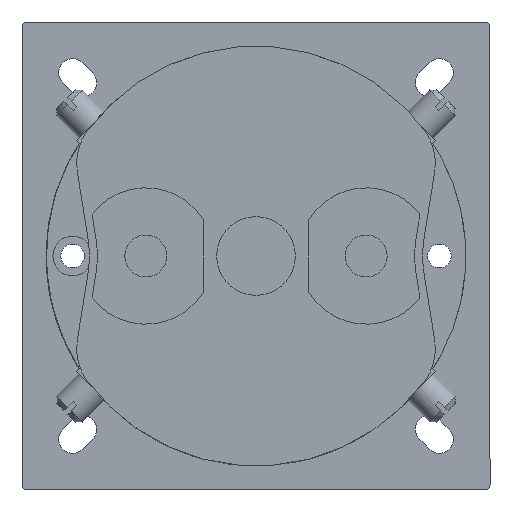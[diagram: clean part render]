
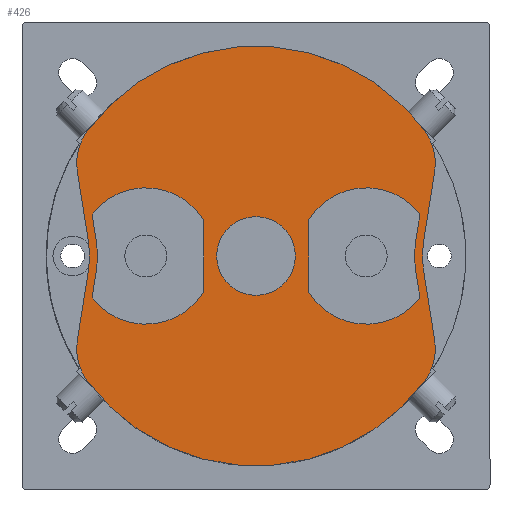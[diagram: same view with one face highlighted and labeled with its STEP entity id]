
A CAD part, front view. The second image highlights one B-rep face of the part: STEP entity #426.
In plain terms, the highlighted planar face has unit normal (0, -1, 0).
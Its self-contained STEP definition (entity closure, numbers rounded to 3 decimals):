
#229=FACE_BOUND('',#1078,.T.);
#230=FACE_BOUND('',#1079,.T.);
#231=FACE_BOUND('',#1080,.T.);
#232=FACE_BOUND('',#1081,.T.);
#426=ADVANCED_FACE('',(#229,#230,#231,#232),#619,.T.);
#619=PLANE('',#4764);
#1078=EDGE_LOOP('',(#1996,#1997,#1998,#1999,#2000,#2001));
#1079=EDGE_LOOP('',(#2002,#2003,#2004,#2005,#2006,#2007));
#1080=EDGE_LOOP('',(#2008,#2009,#2010,#2011,#2012,#2013,#2014,#2015,#2016,
#2017,#2018,#2019));
#1081=EDGE_LOOP('',(#2020));
#1310=CIRCLE('',#4608,40.);
#1316=CIRCLE('',#4614,40.);
#1366=CIRCLE('',#4714,7.5);
#1367=CIRCLE('',#4716,13.);
#1369=CIRCLE('',#4720,21.5);
#1371=CIRCLE('',#4724,13.);
#1373=CIRCLE('',#4730,21.5);
#1375=CIRCLE('',#4734,13.);
#1377=CIRCLE('',#4738,13.);
#1380=CIRCLE('',#4743,10.);
#1382=CIRCLE('',#4747,20.);
#1384=CIRCLE('',#4751,10.);
#1386=CIRCLE('',#4754,10.);
#1388=CIRCLE('',#4758,20.);
#1390=CIRCLE('',#4762,10.);
#1996=ORIENTED_EDGE('',*,*,#3362,.T.);
#1997=ORIENTED_EDGE('',*,*,#3378,.T.);
#1998=ORIENTED_EDGE('',*,*,#3375,.T.);
#1999=ORIENTED_EDGE('',*,*,#3372,.T.);
#2000=ORIENTED_EDGE('',*,*,#3369,.T.);
#2001=ORIENTED_EDGE('',*,*,#3366,.T.);
#2002=ORIENTED_EDGE('',*,*,#3360,.F.);
#2003=ORIENTED_EDGE('',*,*,#3344,.F.);
#2004=ORIENTED_EDGE('',*,*,#3348,.F.);
#2005=ORIENTED_EDGE('',*,*,#3351,.F.);
#2006=ORIENTED_EDGE('',*,*,#3354,.F.);
#2007=ORIENTED_EDGE('',*,*,#3357,.F.);
#2008=ORIENTED_EDGE('',*,*,#3407,.T.);
#2009=ORIENTED_EDGE('',*,*,#3405,.T.);
#2010=ORIENTED_EDGE('',*,*,#3402,.T.);
#2011=ORIENTED_EDGE('',*,*,#3399,.T.);
#2012=ORIENTED_EDGE('',*,*,#3396,.T.);
#2013=ORIENTED_EDGE('',*,*,#3225,.T.);
#2014=ORIENTED_EDGE('',*,*,#3393,.T.);
#2015=ORIENTED_EDGE('',*,*,#3391,.T.);
#2016=ORIENTED_EDGE('',*,*,#3388,.T.);
#2017=ORIENTED_EDGE('',*,*,#3385,.T.);
#2018=ORIENTED_EDGE('',*,*,#3382,.T.);
#2019=ORIENTED_EDGE('',*,*,#3215,.T.);
#2020=ORIENTED_EDGE('',*,*,#3343,.F.);
#2765=VERTEX_POINT('',#6590);
#2766=VERTEX_POINT('',#6592);
#2773=VERTEX_POINT('',#6608);
#2774=VERTEX_POINT('',#6610);
#2851=VERTEX_POINT('',#6855);
#2852=VERTEX_POINT('',#6858);
#2853=VERTEX_POINT('',#6859);
#2856=VERTEX_POINT('',#6867);
#2858=VERTEX_POINT('',#6873);
#2860=VERTEX_POINT('',#6879);
#2862=VERTEX_POINT('',#6885);
#2864=VERTEX_POINT('',#6895);
#2865=VERTEX_POINT('',#6896);
#2868=VERTEX_POINT('',#6904);
#2870=VERTEX_POINT('',#6910);
#2872=VERTEX_POINT('',#6916);
#2874=VERTEX_POINT('',#6922);
#2876=VERTEX_POINT('',#6932);
#2878=VERTEX_POINT('',#6938);
#2880=VERTEX_POINT('',#6944);
#2882=VERTEX_POINT('',#6950);
#2884=VERTEX_POINT('',#6959);
#2886=VERTEX_POINT('',#6965);
#2888=VERTEX_POINT('',#6971);
#2890=VERTEX_POINT('',#6977);
#3215=EDGE_CURVE('',#2766,#2765,#1310,.T.);
#3225=EDGE_CURVE('',#2774,#2773,#1316,.T.);
#3343=EDGE_CURVE('',#2851,#2851,#1366,.T.);
#3344=EDGE_CURVE('',#2852,#2853,#1367,.T.);
#3348=EDGE_CURVE('',#2856,#2852,#3835,.T.);
#3351=EDGE_CURVE('',#2858,#2856,#1369,.T.);
#3354=EDGE_CURVE('',#2860,#2858,#3839,.T.);
#3357=EDGE_CURVE('',#2862,#2860,#1371,.T.);
#3360=EDGE_CURVE('',#2853,#2862,#3843,.T.);
#3362=EDGE_CURVE('',#2864,#2865,#3845,.T.);
#3366=EDGE_CURVE('',#2868,#2864,#1373,.T.);
#3369=EDGE_CURVE('',#2870,#2868,#3850,.T.);
#3372=EDGE_CURVE('',#2872,#2870,#1375,.T.);
#3375=EDGE_CURVE('',#2874,#2872,#3854,.T.);
#3378=EDGE_CURVE('',#2865,#2874,#1377,.T.);
#3382=EDGE_CURVE('',#2876,#2766,#1380,.T.);
#3385=EDGE_CURVE('',#2878,#2876,#3860,.T.);
#3388=EDGE_CURVE('',#2880,#2878,#1382,.T.);
#3391=EDGE_CURVE('',#2882,#2880,#3864,.T.);
#3393=EDGE_CURVE('',#2773,#2882,#1384,.T.);
#3396=EDGE_CURVE('',#2884,#2774,#1386,.T.);
#3399=EDGE_CURVE('',#2886,#2884,#3868,.T.);
#3402=EDGE_CURVE('',#2888,#2886,#1388,.T.);
#3405=EDGE_CURVE('',#2890,#2888,#3872,.T.);
#3407=EDGE_CURVE('',#2765,#2890,#1390,.T.);
#3835=LINE('',#6866,#4236);
#3839=LINE('',#6878,#4240);
#3843=LINE('',#6890,#4244);
#3845=LINE('',#6894,#4246);
#3850=LINE('',#6909,#4251);
#3854=LINE('',#6921,#4255);
#3860=LINE('',#6941,#4261);
#3864=LINE('',#6953,#4265);
#3868=LINE('',#6968,#4269);
#3872=LINE('',#6980,#4273);
#4236=VECTOR('',#5515,1.);
#4240=VECTOR('',#5527,1.);
#4244=VECTOR('',#5539,1.);
#4246=VECTOR('',#5545,1.);
#4251=VECTOR('',#5558,1.);
#4255=VECTOR('',#5570,1.);
#4261=VECTOR('',#5592,1.);
#4265=VECTOR('',#5604,1.);
#4269=VECTOR('',#5622,1.);
#4273=VECTOR('',#5634,1.);
#4608=AXIS2_PLACEMENT_3D('',#6591,#5219,#5220);
#4614=AXIS2_PLACEMENT_3D('',#6609,#5235,#5236);
#4714=AXIS2_PLACEMENT_3D('',#6854,#5503,#5504);
#4716=AXIS2_PLACEMENT_3D('',#6857,#5507,#5508);
#4720=AXIS2_PLACEMENT_3D('',#6872,#5520,#5521);
#4724=AXIS2_PLACEMENT_3D('',#6884,#5532,#5533);
#4730=AXIS2_PLACEMENT_3D('',#6903,#5551,#5552);
#4734=AXIS2_PLACEMENT_3D('',#6915,#5563,#5564);
#4738=AXIS2_PLACEMENT_3D('',#6927,#5575,#5576);
#4743=AXIS2_PLACEMENT_3D('',#6935,#5586,#5587);
#4747=AXIS2_PLACEMENT_3D('',#6947,#5598,#5599);
#4751=AXIS2_PLACEMENT_3D('',#6956,#5609,#5610);
#4754=AXIS2_PLACEMENT_3D('',#6962,#5616,#5617);
#4758=AXIS2_PLACEMENT_3D('',#6974,#5628,#5629);
#4762=AXIS2_PLACEMENT_3D('',#6983,#5639,#5640);
#4764=AXIS2_PLACEMENT_3D('',#6985,#5643,#5644);
#5219=DIRECTION('',(0.,-1.,0.));
#5220=DIRECTION('',(0.,0.,-1.));
#5235=DIRECTION('',(0.,-1.,0.));
#5236=DIRECTION('',(0.,0.,-1.));
#5503=DIRECTION('',(0.,-1.,0.));
#5504=DIRECTION('',(0.,0.,-1.));
#5507=DIRECTION('',(0.,-1.,0.));
#5508=DIRECTION('',(1.,0.,0.));
#5515=DIRECTION('',(0.156,0.,0.988));
#5520=DIRECTION('',(0.,1.,0.));
#5521=DIRECTION('',(1.,0.,0.));
#5527=DIRECTION('',(-0.156,0.,0.988));
#5532=DIRECTION('',(0.,-1.,0.));
#5533=DIRECTION('',(1.,0.,0.));
#5539=DIRECTION('',(0.,0.,-1.));
#5545=DIRECTION('',(-0.156,0.,0.988));
#5551=DIRECTION('',(0.,-1.,0.));
#5552=DIRECTION('',(1.,0.,0.));
#5558=DIRECTION('',(0.156,0.,0.988));
#5563=DIRECTION('',(0.,1.,0.));
#5564=DIRECTION('',(1.,0.,0.));
#5570=DIRECTION('',(0.,0.,-1.));
#5575=DIRECTION('',(0.,1.,0.));
#5576=DIRECTION('',(1.,0.,0.));
#5586=DIRECTION('',(0.,-1.,0.));
#5587=DIRECTION('',(0.,0.,-1.));
#5592=DIRECTION('',(0.156,0.,0.988));
#5598=DIRECTION('',(0.,1.,0.));
#5599=DIRECTION('',(0.,0.,-1.));
#5604=DIRECTION('',(-0.156,0.,0.988));
#5609=DIRECTION('',(0.,-1.,0.));
#5610=DIRECTION('',(0.,0.,-1.));
#5616=DIRECTION('',(0.,-1.,0.));
#5617=DIRECTION('',(0.,0.,-1.));
#5622=DIRECTION('',(-0.156,0.,-0.988));
#5628=DIRECTION('',(0.,1.,0.));
#5629=DIRECTION('',(0.,0.,-1.));
#5634=DIRECTION('',(0.156,0.,-0.988));
#5639=DIRECTION('',(0.,-1.,0.));
#5640=DIRECTION('',(0.,0.,-1.));
#5643=DIRECTION('',(0.,-1.,0.));
#5644=DIRECTION('',(0.,0.,-1.));
#6590=CARTESIAN_POINT('',(-32.249,-62.5,23.665));
#6591=CARTESIAN_POINT('',(0.,-62.5,0.));
#6592=CARTESIAN_POINT('',(32.249,-62.5,23.665));
#6608=CARTESIAN_POINT('',(32.249,-62.5,-23.665));
#6609=CARTESIAN_POINT('',(0.,-62.5,0.));
#6610=CARTESIAN_POINT('',(-32.249,-62.5,-23.665));
#6854=CARTESIAN_POINT('',(0.,-62.5,0.));
#6855=CARTESIAN_POINT('',(0.,-62.5,-7.5));
#6857=CARTESIAN_POINT('',(21.031,-62.5,0.));
#6858=CARTESIAN_POINT('',(31.253,-62.5,8.032));
#6859=CARTESIAN_POINT('',(10.031,-62.5,6.928));
#6866=CARTESIAN_POINT('',(30.514,-62.5,3.363));
#6867=CARTESIAN_POINT('',(30.514,-62.5,3.363));
#6872=CARTESIAN_POINT('',(51.749,-62.5,0.));
#6873=CARTESIAN_POINT('',(30.514,-62.5,-3.363));
#6878=CARTESIAN_POINT('',(31.253,-62.5,-8.032));
#6879=CARTESIAN_POINT('',(31.253,-62.5,-8.032));
#6884=CARTESIAN_POINT('',(21.031,-62.5,0.));
#6885=CARTESIAN_POINT('',(10.031,-62.5,-6.928));
#6890=CARTESIAN_POINT('',(10.031,-62.5,6.928));
#6894=CARTESIAN_POINT('',(-30.514,-62.5,3.363));
#6895=CARTESIAN_POINT('',(-30.514,-62.5,3.363));
#6896=CARTESIAN_POINT('',(-31.248,-62.5,7.998));
#6903=CARTESIAN_POINT('',(-51.749,-62.5,0.));
#6904=CARTESIAN_POINT('',(-30.514,-62.5,-3.363));
#6909=CARTESIAN_POINT('',(-31.248,-62.5,-7.998));
#6910=CARTESIAN_POINT('',(-31.248,-62.5,-7.998));
#6915=CARTESIAN_POINT('',(-21.,-62.5,0.));
#6916=CARTESIAN_POINT('',(-10.,-62.5,-6.928));
#6921=CARTESIAN_POINT('',(-10.,-62.5,6.928));
#6922=CARTESIAN_POINT('',(-10.,-62.5,6.928));
#6927=CARTESIAN_POINT('',(-21.,-62.5,0.));
#6932=CARTESIAN_POINT('',(34.063,-62.5,16.184));
#6935=CARTESIAN_POINT('',(24.186,-62.5,17.749));
#6938=CARTESIAN_POINT('',(31.996,-62.5,3.129));
#6941=CARTESIAN_POINT('',(31.996,-62.5,3.129));
#6944=CARTESIAN_POINT('',(31.996,-62.5,-3.129));
#6947=CARTESIAN_POINT('',(51.749,-62.5,0.));
#6950=CARTESIAN_POINT('',(34.063,-62.5,-16.184));
#6953=CARTESIAN_POINT('',(34.063,-62.5,-16.184));
#6956=CARTESIAN_POINT('',(24.186,-62.5,-17.749));
#6959=CARTESIAN_POINT('',(-34.063,-62.5,-16.184));
#6962=CARTESIAN_POINT('',(-24.186,-62.5,-17.749));
#6965=CARTESIAN_POINT('',(-31.996,-62.5,-3.129));
#6968=CARTESIAN_POINT('',(-31.996,-62.5,-3.129));
#6971=CARTESIAN_POINT('',(-31.996,-62.5,3.129));
#6974=CARTESIAN_POINT('',(-51.749,-62.5,0.));
#6977=CARTESIAN_POINT('',(-34.063,-62.5,16.184));
#6980=CARTESIAN_POINT('',(-34.063,-62.5,16.184));
#6983=CARTESIAN_POINT('',(-24.186,-62.5,17.749));
#6985=CARTESIAN_POINT('',(-24.186,-62.5,17.749));
